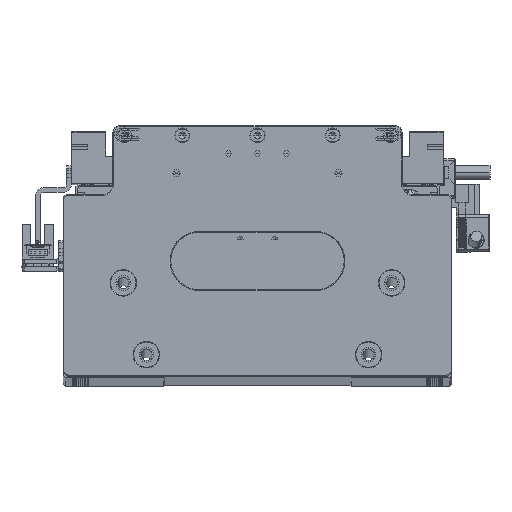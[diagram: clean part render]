
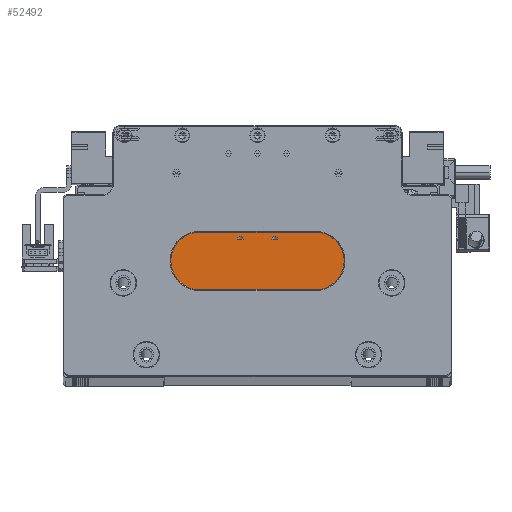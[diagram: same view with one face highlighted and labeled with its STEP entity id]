
A CAD part, top view. The second image highlights one B-rep face of the part: STEP entity #52492.
In plain terms, the highlighted planar face has unit normal (0, 0, 1).
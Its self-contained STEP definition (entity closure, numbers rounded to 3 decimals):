
#807 = CARTESIAN_POINT ( 'NONE',  ( 0., 61.2, 90. ) ) ;
#2240 = LINE ( 'NONE', #97694, #90877 ) ;
#2784 = DIRECTION ( 'NONE',  ( -1., 0., 0. ) ) ;
#3032 = ORIENTED_EDGE ( 'NONE', *, *, #133878, .T. ) ;
#3266 = VERTEX_POINT ( 'NONE', #81711 ) ;
#3429 = CARTESIAN_POINT ( 'NONE',  ( -33.5, 69., 90. ) ) ;
#3984 = ORIENTED_EDGE ( 'NONE', *, *, #89871, .T. ) ;
#4082 = CARTESIAN_POINT ( 'NONE',  ( -45., 69.2, 90. ) ) ;
#4620 = VERTEX_POINT ( 'NONE', #27418 ) ;
#5298 = FACE_OUTER_BOUND ( 'NONE', #88979, .T. ) ;
#5859 = VERTEX_POINT ( 'NONE', #22695 ) ;
#6050 = DIRECTION ( 'NONE',  ( 1., 0., 0. ) ) ;
#7049 = DIRECTION ( 'NONE',  ( -1., 0., 0. ) ) ;
#12145 = LINE ( 'NONE', #120619, #15631 ) ;
#12402 = CARTESIAN_POINT ( 'NONE',  ( 33.5, 69.2, 90. ) ) ;
#15631 = VECTOR ( 'NONE', #65214, 1000. ) ;
#18919 = EDGE_LOOP ( 'NONE', ( #137101, #3032 ) ) ;
#19451 = CARTESIAN_POINT ( 'NONE',  ( -45., 29., 90. ) ) ;
#20864 = AXIS2_PLACEMENT_3D ( 'NONE', #27542, #105258, #38647 ) ;
#21165 = VERTEX_POINT ( 'NONE', #65236 ) ;
#22695 = CARTESIAN_POINT ( 'NONE',  ( -33.5, 61.2, 90. ) ) ;
#27042 = AXIS2_PLACEMENT_3D ( 'NONE', #49973, #127722, #61118 ) ;
#27418 = CARTESIAN_POINT ( 'NONE',  ( 6.25, 61.2, 90. ) ) ;
#27542 = CARTESIAN_POINT ( 'NONE',  ( 0., 69.2, 90. ) ) ;
#29832 = EDGE_CURVE ( 'NONE', #141422, #21165, #118443, .T. ) ;
#30077 = DIRECTION ( 'NONE',  ( 0., -1., 0. ) ) ;
#33885 = DIRECTION ( 'NONE',  ( -1., 0., 0. ) ) ;
#34334 = VERTEX_POINT ( 'NONE', #128998 ) ;
#36181 = VERTEX_POINT ( 'NONE', #61456 ) ;
#38647 = DIRECTION ( 'NONE',  ( 1., 0., 0. ) ) ;
#38777 = ORIENTED_EDGE ( 'NONE', *, *, #78165, .T. ) ;
#40432 = EDGE_CURVE ( 'NONE', #58376, #5859, #81028, .T. ) ;
#41359 = CARTESIAN_POINT ( 'NONE',  ( 33.5, 61.2, 90. ) ) ;
#41841 = CARTESIAN_POINT ( 'NONE',  ( -6.25, 61.2, 90. ) ) ;
#42830 = VECTOR ( 'NONE', #134334, 1000. ) ;
#42968 = ORIENTED_EDGE ( 'NONE', *, *, #29832, .F. ) ;
#44554 = LINE ( 'NONE', #135802, #126280 ) ;
#45048 = LINE ( 'NONE', #12402, #130238 ) ;
#49973 = CARTESIAN_POINT ( 'NONE',  ( -7.5, 61.2, 90. ) ) ;
#52492 = ADVANCED_FACE ( 'NONE', ( #5298, #123476, #119990 ), #71667, .T. ) ;
#54763 = VECTOR ( 'NONE', #33885, 1000. ) ;
#55628 = VECTOR ( 'NONE', #7049, 1000. ) ;
#55834 = VECTOR ( 'NONE', #30077, 1000. ) ;
#57888 = EDGE_CURVE ( 'NONE', #34334, #84370, #138853, .T. ) ;
#58376 = VERTEX_POINT ( 'NONE', #3429 ) ;
#59981 = EDGE_LOOP ( 'NONE', ( #102503, #101268 ) ) ;
#60595 = AXIS2_PLACEMENT_3D ( 'NONE', #139078, #72523, #6050 ) ;
#61118 = DIRECTION ( 'NONE',  ( 1., 0., 0. ) ) ;
#61456 = CARTESIAN_POINT ( 'NONE',  ( 8.75, 61.2, 90. ) ) ;
#63649 = CARTESIAN_POINT ( 'NONE',  ( 45., 61.2, 90. ) ) ;
#64277 = EDGE_CURVE ( 'NONE', #21165, #84370, #44554, .T. ) ;
#65214 = DIRECTION ( 'NONE',  ( -1., 0., 0. ) ) ;
#65236 = CARTESIAN_POINT ( 'NONE',  ( 45., 29., 90. ) ) ;
#65555 = EDGE_CURVE ( 'NONE', #3266, #139074, #84499, .T. ) ;
#68117 = ORIENTED_EDGE ( 'NONE', *, *, #143424, .T. ) ;
#71667 = PLANE ( 'NONE',  #20864 ) ;
#72523 = DIRECTION ( 'NONE',  ( 0., 0., -1. ) ) ;
#78165 = EDGE_CURVE ( 'NONE', #137162, #136054, #45048, .T. ) ;
#78239 = LINE ( 'NONE', #118279, #55628 ) ;
#78623 = CARTESIAN_POINT ( 'NONE',  ( -45., 61.2, 90. ) ) ;
#78942 = DIRECTION ( 'NONE',  ( 0., 1., 0. ) ) ;
#81028 = LINE ( 'NONE', #97306, #136580 ) ;
#81711 = CARTESIAN_POINT ( 'NONE',  ( -8.75, 61.2, 90. ) ) ;
#83482 = EDGE_CURVE ( 'NONE', #36181, #4620, #2240, .T. ) ;
#84370 = VERTEX_POINT ( 'NONE', #19451 ) ;
#84499 = CIRCLE ( 'NONE', #27042, 1.25 ) ;
#87314 = EDGE_CURVE ( 'NONE', #4620, #36181, #97353, .T. ) ;
#87830 = LINE ( 'NONE', #78623, #54763 ) ;
#88979 = EDGE_LOOP ( 'NONE', ( #42968, #143309, #38777, #68117, #137423, #3984, #124922, #98812 ) ) ;
#89871 = EDGE_CURVE ( 'NONE', #5859, #34334, #102000, .T. ) ;
#90877 = VECTOR ( 'NONE', #108872, 1000. ) ;
#97306 = CARTESIAN_POINT ( 'NONE',  ( -33.5, 69.2, 90. ) ) ;
#97353 = CIRCLE ( 'NONE', #60595, 1.25 ) ;
#97694 = CARTESIAN_POINT ( 'NONE',  ( -45., 61.2, 90. ) ) ;
#98812 = ORIENTED_EDGE ( 'NONE', *, *, #64277, .F. ) ;
#101268 = ORIENTED_EDGE ( 'NONE', *, *, #83482, .T. ) ;
#102000 = LINE ( 'NONE', #807, #42830 ) ;
#102503 = ORIENTED_EDGE ( 'NONE', *, *, #87314, .T. ) ;
#105258 = DIRECTION ( 'NONE',  ( 0., 0., 1. ) ) ;
#108872 = DIRECTION ( 'NONE',  ( -1., 0., 0. ) ) ;
#109343 = VECTOR ( 'NONE', #115300, 1000. ) ;
#115300 = DIRECTION ( 'NONE',  ( 0., -1., 0. ) ) ;
#118279 = CARTESIAN_POINT ( 'NONE',  ( 0., 61.2, 90. ) ) ;
#118443 = LINE ( 'NONE', #130163, #55834 ) ;
#119670 = DIRECTION ( 'NONE',  ( 0., -1., 0. ) ) ;
#119990 = FACE_BOUND ( 'NONE', #59981, .T. ) ;
#120619 = CARTESIAN_POINT ( 'NONE',  ( 0., 69., 90. ) ) ;
#123193 = EDGE_CURVE ( 'NONE', #141422, #137162, #78239, .T. ) ;
#123476 = FACE_BOUND ( 'NONE', #18919, .T. ) ;
#124922 = ORIENTED_EDGE ( 'NONE', *, *, #57888, .T. ) ;
#126280 = VECTOR ( 'NONE', #2784, 1000. ) ;
#127722 = DIRECTION ( 'NONE',  ( 0., 0., -1. ) ) ;
#128998 = CARTESIAN_POINT ( 'NONE',  ( -45., 61.2, 90. ) ) ;
#130163 = CARTESIAN_POINT ( 'NONE',  ( 45., 61.2, 90. ) ) ;
#130238 = VECTOR ( 'NONE', #78942, 1000. ) ;
#130390 = CARTESIAN_POINT ( 'NONE',  ( 33.5, 69., 90. ) ) ;
#133878 = EDGE_CURVE ( 'NONE', #139074, #3266, #87830, .T. ) ;
#134334 = DIRECTION ( 'NONE',  ( -1., 0., 0. ) ) ;
#135802 = CARTESIAN_POINT ( 'NONE',  ( -45., 29., 90. ) ) ;
#136054 = VERTEX_POINT ( 'NONE', #130390 ) ;
#136580 = VECTOR ( 'NONE', #119670, 1000. ) ;
#137101 = ORIENTED_EDGE ( 'NONE', *, *, #65555, .T. ) ;
#137162 = VERTEX_POINT ( 'NONE', #41359 ) ;
#137423 = ORIENTED_EDGE ( 'NONE', *, *, #40432, .T. ) ;
#138853 = LINE ( 'NONE', #4082, #109343 ) ;
#139074 = VERTEX_POINT ( 'NONE', #41841 ) ;
#139078 = CARTESIAN_POINT ( 'NONE',  ( 7.5, 61.2, 90. ) ) ;
#141422 = VERTEX_POINT ( 'NONE', #63649 ) ;
#143309 = ORIENTED_EDGE ( 'NONE', *, *, #123193, .T. ) ;
#143424 = EDGE_CURVE ( 'NONE', #136054, #58376, #12145, .T. ) ;
